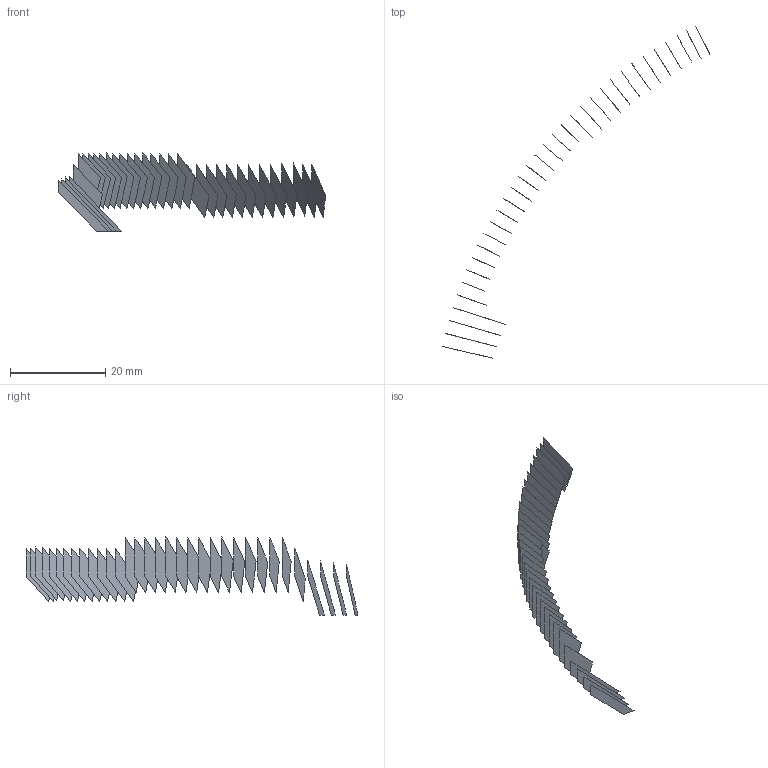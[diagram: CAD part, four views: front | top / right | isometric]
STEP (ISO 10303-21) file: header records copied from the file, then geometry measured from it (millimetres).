
FILE_DESCRIPTION(('FreeCAD Model'),'2;1');
FILE_NAME('Open CASCADE Shape Model','2022-05-21T09:28:00',('FreeCAD'),( 'FreeCAD'),'Open CASCADE STEP processor 7.5','FreeCAD','Unknown');
FILE_SCHEMA(('AUTOMOTIVE_DESIGN { 1 0 10303 214 1 1 1 1 }'));
Length unit declared in the file: millimetre
Products named in the file (34): Open CASCADE STEP translator 7.5 1; Open CASCADE STEP translator 7.5 1.1; Open CASCADE STEP translator 7.5 1.2; Open CASCADE STEP translator 7.5 1.3; Open CASCADE STEP translator 7.5 1.4; Open CASCADE STEP translator 7.5 1.5; Open CASCADE STEP translator 7.5 1.6; Open CASCADE STEP translator 7.5 1.7; Open CASCADE STEP translator 7.5 1.8; Open CASCADE STEP translator 7.5 1.9; Open CASCADE STEP translator 7.5 1.10; Open CASCADE STEP translator 7.5 1.11; Open CASCADE STEP translator 7.5 1.12; Open CASCADE STEP translator 7.5 1.13; Open CASCADE STEP translator 7.5 1.14; Open CASCADE STEP translator 7.5 1.15; Open CASCADE STEP translator 7.5 1.16; Open CASCADE STEP translator 7.5 1.17; Open CASCADE STEP translator 7.5 1.18; Open CASCADE STEP translator 7.5 1.19; Open CASCADE STEP translator 7.5 1.20; Open CASCADE STEP translator 7.5 1.21; Open CASCADE STEP translator 7.5 1.22; Open CASCADE STEP translator 7.5 1.23; Open CASCADE STEP translator 7.5 1.24; Open CASCADE STEP translator 7.5 1.25; Open CASCADE STEP translator 7.5 1.26; Open CASCADE STEP translator 7.5 1.27; Open CASCADE STEP translator 7.5 1.28; Open CASCADE STEP translator 7.5 1.29; Open CASCADE STEP translator 7.5 1.30; Open CASCADE STEP translator 7.5 1.31; Open CASCADE STEP translator 7.5 1.32; Open CASCADE STEP translator 7.5 1.33
Assembly tree (33 placements, depth 2):
  Open CASCADE STEP translator 7.5 1
    Open CASCADE STEP translator 7.5 1.1
    Open CASCADE STEP translator 7.5 1.2
    Open CASCADE STEP translator 7.5 1.3
    Open CASCADE STEP translator 7.5 1.4
    Open CASCADE STEP translator 7.5 1.5
    Open CASCADE STEP translator 7.5 1.6
    Open CASCADE STEP translator 7.5 1.7
    Open CASCADE STEP translator 7.5 1.8
    Open CASCADE STEP translator 7.5 1.9
    Open CASCADE STEP translator 7.5 1.10
    Open CASCADE STEP translator 7.5 1.11
    Open CASCADE STEP translator 7.5 1.12
    Open CASCADE STEP translator 7.5 1.13
    Open CASCADE STEP translator 7.5 1.14
    Open CASCADE STEP translator 7.5 1.15
    Open CASCADE STEP translator 7.5 1.16
    Open CASCADE STEP translator 7.5 1.17
    Open CASCADE STEP translator 7.5 1.18
    Open CASCADE STEP translator 7.5 1.19
    Open CASCADE STEP translator 7.5 1.20
    Open CASCADE STEP translator 7.5 1.21
    Open CASCADE STEP translator 7.5 1.22
    Open CASCADE STEP translator 7.5 1.23
    Open CASCADE STEP translator 7.5 1.24
    Open CASCADE STEP translator 7.5 1.25
    Open CASCADE STEP translator 7.5 1.26
    Open CASCADE STEP translator 7.5 1.27
    Open CASCADE STEP translator 7.5 1.28
    Open CASCADE STEP translator 7.5 1.29
    Open CASCADE STEP translator 7.5 1.30
    Open CASCADE STEP translator 7.5 1.31
    Open CASCADE STEP translator 7.5 1.32
    Open CASCADE STEP translator 7.5 1.33
Bounding box: 56.23 x 69.82 x 16.48 mm (x, y, z)
Surface area: 1127.9 mm2 (no closed solid volume)
Topology: 0 solids, 33 shells, 33 faces, 279 edges, 279 vertices
Faces by surface type: bspline 33
Entity records: 4567 total; most frequent: CARTESIAN_POINT 1561, B_SPLINE_CURVE_WITH_KNOTS 558, ORIENTED_EDGE 279, EDGE_CURVE 279, VERTEX_POINT 279, SURFACE_CURVE 279, PCURVE 279, DEFINITIONAL_REPRESENTATION 279
